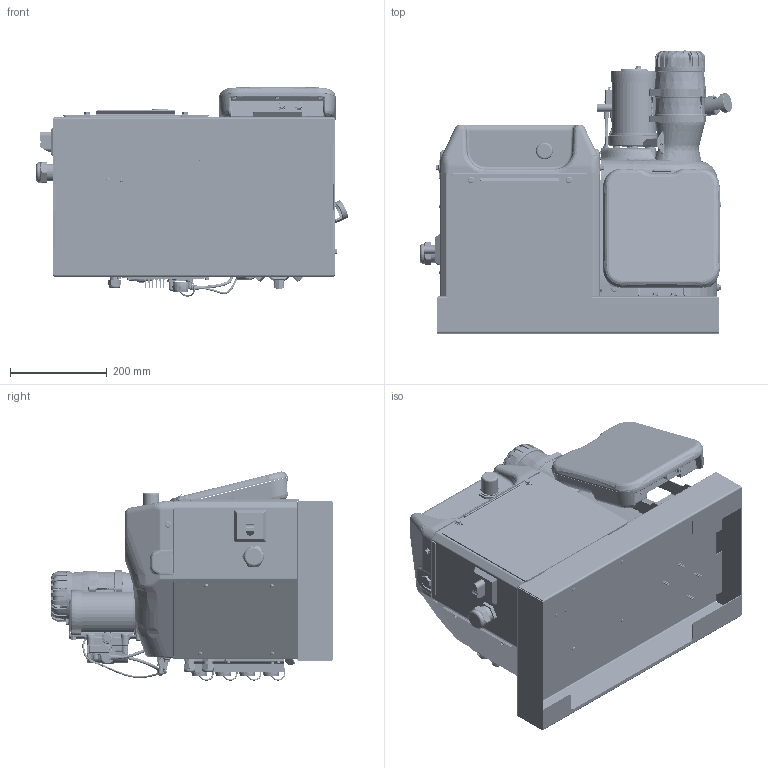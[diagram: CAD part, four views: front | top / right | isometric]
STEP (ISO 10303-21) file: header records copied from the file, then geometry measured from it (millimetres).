
FILE_DESCRIPTION((''),'2;1');
FILE_NAME('25C700-EN-N_PRT','2019-12-31T19:48:55',('qusrh3'),(''),'CREO PARAMETRIC BY PTC INC, 2019030','CREO PARAMETRIC BY PTC INC, 2019030','');
FILE_SCHEMA(('CONFIG_CONTROL_DESIGN'));
Products named in the file (1): 25C700-EN-N_PRT
Bounding box: 646.18 x 586.23 x 433.57 mm (x, y, z)
Surface area: 4000684.7 mm2 (no closed solid volume)
Topology: 0 solids, 741 shells, 8176 faces, 25628 edges, 17532 vertices
Faces by surface type: plane 2724, cylinder 2308, bspline 1553, cone 944, torus 560, sphere 83, extrusion 4
Entity records: 474184 total; most frequent: CARTESIAN_POINT 271647, ORIENTED_EDGE 41899, DIRECTION 37099, EDGE_CURVE 25584, VERTEX_POINT 17532, AXIS2_PLACEMENT_3D 13900, VECTOR 9299, LINE 9295
